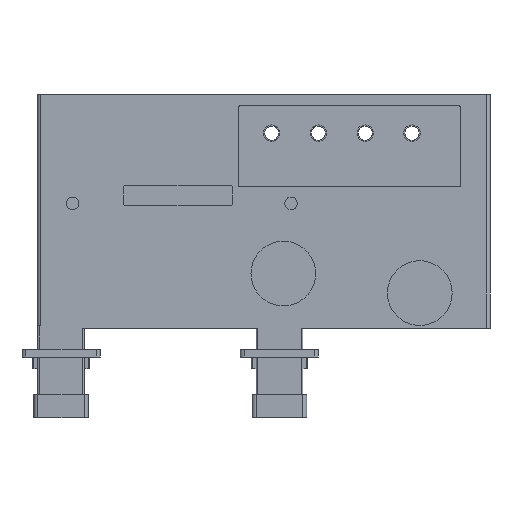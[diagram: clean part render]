
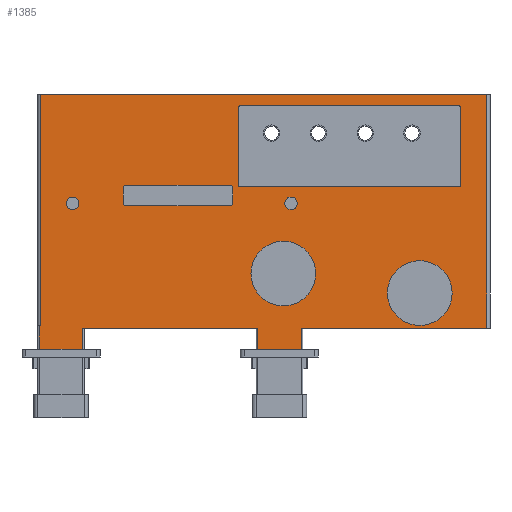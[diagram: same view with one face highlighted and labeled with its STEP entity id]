
A CAD part, front view. The second image highlights one B-rep face of the part: STEP entity #1385.
In plain terms, the highlighted planar face has unit normal (0, -1, 0).
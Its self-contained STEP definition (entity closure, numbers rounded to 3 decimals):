
#1236 = VERTEX_POINT('',#1237);
#1237 = CARTESIAN_POINT('',(-40.2,16.,14.3));
#1244 = EDGE_CURVE('',#1236,#1245,#1247,.T.);
#1245 = VERTEX_POINT('',#1246);
#1246 = CARTESIAN_POINT('',(-45.8,16.,14.3));
#1247 = LINE('',#1248,#1249);
#1248 = CARTESIAN_POINT('',(-31.195,16.,14.3));
#1249 = VECTOR('',#1250,1.);
#1250 = DIRECTION('',(-1.,0.,0.));
#1339 = EDGE_CURVE('',#1245,#1340,#1342,.T.);
#1340 = VERTEX_POINT('',#1341);
#1341 = CARTESIAN_POINT('',(-45.8,16.,17.3));
#1342 = LINE('',#1343,#1344);
#1343 = CARTESIAN_POINT('',(-45.8,16.,8.4));
#1344 = VECTOR('',#1345,1.);
#1345 = DIRECTION('',(0.,0.,1.));
#1385 = ADVANCED_FACE('',(#1386,#1468,#1479,#1549,#1619,#1630,#1641),
  #1652,.T.);
#1386 = FACE_BOUND('',#1387,.T.);
#1387 = EDGE_LOOP('',(#1388,#1389,#1390,#1398,#1406,#1414,#1422,#1430,
    #1438,#1446,#1454,#1462));
#1388 = ORIENTED_EDGE('',*,*,#1339,.F.);
#1389 = ORIENTED_EDGE('',*,*,#1244,.F.);
#1390 = ORIENTED_EDGE('',*,*,#1391,.T.);
#1391 = EDGE_CURVE('',#1236,#1392,#1394,.T.);
#1392 = VERTEX_POINT('',#1393);
#1393 = CARTESIAN_POINT('',(-40.2,16.,17.));
#1394 = LINE('',#1395,#1396);
#1395 = CARTESIAN_POINT('',(-40.2,16.,8.4));
#1396 = VECTOR('',#1397,1.);
#1397 = DIRECTION('',(0.,0.,1.));
#1398 = ORIENTED_EDGE('',*,*,#1399,.T.);
#1399 = EDGE_CURVE('',#1392,#1400,#1402,.T.);
#1400 = VERTEX_POINT('',#1401);
#1401 = CARTESIAN_POINT('',(-17.8,16.,17.));
#1402 = LINE('',#1403,#1404);
#1403 = CARTESIAN_POINT('',(-45.6,16.,17.));
#1404 = VECTOR('',#1405,1.);
#1405 = DIRECTION('',(1.,0.,0.));
#1406 = ORIENTED_EDGE('',*,*,#1407,.F.);
#1407 = EDGE_CURVE('',#1408,#1400,#1410,.T.);
#1408 = VERTEX_POINT('',#1409);
#1409 = CARTESIAN_POINT('',(-17.8,16.,14.3));
#1410 = LINE('',#1411,#1412);
#1411 = CARTESIAN_POINT('',(-17.8,16.,8.4));
#1412 = VECTOR('',#1413,1.);
#1413 = DIRECTION('',(0.,0.,1.));
#1414 = ORIENTED_EDGE('',*,*,#1415,.F.);
#1415 = EDGE_CURVE('',#1416,#1408,#1418,.T.);
#1416 = VERTEX_POINT('',#1417);
#1417 = CARTESIAN_POINT('',(-12.2,16.,14.3));
#1418 = LINE('',#1419,#1420);
#1419 = CARTESIAN_POINT('',(-16.298,16.,14.3));
#1420 = VECTOR('',#1421,1.);
#1421 = DIRECTION('',(-1.,0.,0.));
#1422 = ORIENTED_EDGE('',*,*,#1423,.T.);
#1423 = EDGE_CURVE('',#1416,#1424,#1426,.T.);
#1424 = VERTEX_POINT('',#1425);
#1425 = CARTESIAN_POINT('',(-12.2,16.,17.));
#1426 = LINE('',#1427,#1428);
#1427 = CARTESIAN_POINT('',(-12.2,16.,8.4));
#1428 = VECTOR('',#1429,1.);
#1429 = DIRECTION('',(0.,0.,1.));
#1430 = ORIENTED_EDGE('',*,*,#1431,.T.);
#1431 = EDGE_CURVE('',#1424,#1432,#1434,.T.);
#1432 = VERTEX_POINT('',#1433);
#1433 = CARTESIAN_POINT('',(11.6,16.,17.));
#1434 = LINE('',#1435,#1436);
#1435 = CARTESIAN_POINT('',(-45.6,16.,17.));
#1436 = VECTOR('',#1437,1.);
#1437 = DIRECTION('',(1.,0.,0.));
#1438 = ORIENTED_EDGE('',*,*,#1439,.T.);
#1439 = EDGE_CURVE('',#1432,#1440,#1442,.T.);
#1440 = VERTEX_POINT('',#1441);
#1441 = CARTESIAN_POINT('',(11.6,16.,47.));
#1442 = LINE('',#1443,#1444);
#1443 = CARTESIAN_POINT('',(11.6,16.,17.));
#1444 = VECTOR('',#1445,1.);
#1445 = DIRECTION('',(0.,0.,1.));
#1446 = ORIENTED_EDGE('',*,*,#1447,.F.);
#1447 = EDGE_CURVE('',#1448,#1440,#1450,.T.);
#1448 = VERTEX_POINT('',#1449);
#1449 = CARTESIAN_POINT('',(-45.6,16.,47.));
#1450 = LINE('',#1451,#1452);
#1451 = CARTESIAN_POINT('',(-45.6,16.,47.));
#1452 = VECTOR('',#1453,1.);
#1453 = DIRECTION('',(1.,0.,0.));
#1454 = ORIENTED_EDGE('',*,*,#1455,.F.);
#1455 = EDGE_CURVE('',#1456,#1448,#1458,.T.);
#1456 = VERTEX_POINT('',#1457);
#1457 = CARTESIAN_POINT('',(-45.6,16.,17.3));
#1458 = LINE('',#1459,#1460);
#1459 = CARTESIAN_POINT('',(-45.6,16.,17.));
#1460 = VECTOR('',#1461,1.);
#1461 = DIRECTION('',(0.,0.,1.));
#1462 = ORIENTED_EDGE('',*,*,#1463,.F.);
#1463 = EDGE_CURVE('',#1340,#1456,#1464,.T.);
#1464 = LINE('',#1465,#1466);
#1465 = CARTESIAN_POINT('',(-45.8,16.,17.3));
#1466 = VECTOR('',#1467,1.);
#1467 = DIRECTION('',(1.,0.,0.));
#1468 = FACE_BOUND('',#1469,.T.);
#1469 = EDGE_LOOP('',(#1470));
#1470 = ORIENTED_EDGE('',*,*,#1471,.F.);
#1471 = EDGE_CURVE('',#1472,#1472,#1474,.T.);
#1472 = VERTEX_POINT('',#1473);
#1473 = CARTESIAN_POINT('',(-40.7,16.,33.));
#1474 = CIRCLE('',#1475,0.8);
#1475 = AXIS2_PLACEMENT_3D('',#1476,#1477,#1478);
#1476 = CARTESIAN_POINT('',(-41.5,16.,33.));
#1477 = DIRECTION('',(0.,-1.,0.));
#1478 = DIRECTION('',(1.,0.,0.));
#1479 = FACE_BOUND('',#1480,.T.);
#1480 = EDGE_LOOP('',(#1481,#1491,#1500,#1508,#1517,#1525,#1534,#1542));
#1481 = ORIENTED_EDGE('',*,*,#1482,.F.);
#1482 = EDGE_CURVE('',#1483,#1485,#1487,.T.);
#1483 = VERTEX_POINT('',#1484);
#1484 = CARTESIAN_POINT('',(-34.7,16.,32.7));
#1485 = VERTEX_POINT('',#1486);
#1486 = CARTESIAN_POINT('',(-21.3,16.,32.7));
#1487 = LINE('',#1488,#1489);
#1488 = CARTESIAN_POINT('',(-26.148,16.,32.7));
#1489 = VECTOR('',#1490,1.);
#1490 = DIRECTION('',(1.,0.,0.));
#1491 = ORIENTED_EDGE('',*,*,#1492,.F.);
#1492 = EDGE_CURVE('',#1493,#1483,#1495,.T.);
#1493 = VERTEX_POINT('',#1494);
#1494 = CARTESIAN_POINT('',(-35.,16.,33.));
#1495 = CIRCLE('',#1496,0.3);
#1496 = AXIS2_PLACEMENT_3D('',#1497,#1498,#1499);
#1497 = CARTESIAN_POINT('',(-34.7,16.,33.));
#1498 = DIRECTION('',(0.,-1.,0.));
#1499 = DIRECTION('',(-1.,0.,0.));
#1500 = ORIENTED_EDGE('',*,*,#1501,.F.);
#1501 = EDGE_CURVE('',#1502,#1493,#1504,.T.);
#1502 = VERTEX_POINT('',#1503);
#1503 = CARTESIAN_POINT('',(-35.,16.,35.));
#1504 = LINE('',#1505,#1506);
#1505 = CARTESIAN_POINT('',(-35.,16.,32.26));
#1506 = VECTOR('',#1507,1.);
#1507 = DIRECTION('',(0.,0.,-1.));
#1508 = ORIENTED_EDGE('',*,*,#1509,.F.);
#1509 = EDGE_CURVE('',#1510,#1502,#1512,.T.);
#1510 = VERTEX_POINT('',#1511);
#1511 = CARTESIAN_POINT('',(-34.7,16.,35.3));
#1512 = CIRCLE('',#1513,0.3);
#1513 = AXIS2_PLACEMENT_3D('',#1514,#1515,#1516);
#1514 = CARTESIAN_POINT('',(-34.7,16.,35.));
#1515 = DIRECTION('',(0.,-1.,0.));
#1516 = DIRECTION('',(0.,0.,1.));
#1517 = ORIENTED_EDGE('',*,*,#1518,.F.);
#1518 = EDGE_CURVE('',#1519,#1510,#1521,.T.);
#1519 = VERTEX_POINT('',#1520);
#1520 = CARTESIAN_POINT('',(-21.3,16.,35.3));
#1521 = LINE('',#1522,#1523);
#1522 = CARTESIAN_POINT('',(-19.448,16.,35.3));
#1523 = VECTOR('',#1524,1.);
#1524 = DIRECTION('',(-1.,0.,0.));
#1525 = ORIENTED_EDGE('',*,*,#1526,.F.);
#1526 = EDGE_CURVE('',#1527,#1519,#1529,.T.);
#1527 = VERTEX_POINT('',#1528);
#1528 = CARTESIAN_POINT('',(-21.,16.,35.));
#1529 = CIRCLE('',#1530,0.3);
#1530 = AXIS2_PLACEMENT_3D('',#1531,#1532,#1533);
#1531 = CARTESIAN_POINT('',(-21.3,16.,35.));
#1532 = DIRECTION('',(0.,-1.,0.));
#1533 = DIRECTION('',(1.,0.,0.));
#1534 = ORIENTED_EDGE('',*,*,#1535,.F.);
#1535 = EDGE_CURVE('',#1536,#1527,#1538,.T.);
#1536 = VERTEX_POINT('',#1537);
#1537 = CARTESIAN_POINT('',(-21.,16.,33.));
#1538 = LINE('',#1539,#1540);
#1539 = CARTESIAN_POINT('',(-21.,16.,31.26));
#1540 = VECTOR('',#1541,1.);
#1541 = DIRECTION('',(0.,0.,1.));
#1542 = ORIENTED_EDGE('',*,*,#1543,.F.);
#1543 = EDGE_CURVE('',#1485,#1536,#1544,.T.);
#1544 = CIRCLE('',#1545,0.3);
#1545 = AXIS2_PLACEMENT_3D('',#1546,#1547,#1548);
#1546 = CARTESIAN_POINT('',(-21.3,16.,33.));
#1547 = DIRECTION('',(0.,-1.,0.));
#1548 = DIRECTION('',(0.,0.,-1.));
#1549 = FACE_BOUND('',#1550,.T.);
#1550 = EDGE_LOOP('',(#1551,#1561,#1570,#1578,#1587,#1595,#1604,#1612));
#1551 = ORIENTED_EDGE('',*,*,#1552,.F.);
#1552 = EDGE_CURVE('',#1553,#1555,#1557,.T.);
#1553 = VERTEX_POINT('',#1554);
#1554 = CARTESIAN_POINT('',(-20.05,16.,35.1));
#1555 = VERTEX_POINT('',#1556);
#1556 = CARTESIAN_POINT('',(8.05,16.,35.1));
#1557 = LINE('',#1558,#1559);
#1558 = CARTESIAN_POINT('',(-18.823,16.,35.1));
#1559 = VECTOR('',#1560,1.);
#1560 = DIRECTION('',(1.,0.,0.));
#1561 = ORIENTED_EDGE('',*,*,#1562,.F.);
#1562 = EDGE_CURVE('',#1563,#1553,#1565,.T.);
#1563 = VERTEX_POINT('',#1564);
#1564 = CARTESIAN_POINT('',(-20.2,16.,35.25));
#1565 = CIRCLE('',#1566,0.15);
#1566 = AXIS2_PLACEMENT_3D('',#1567,#1568,#1569);
#1567 = CARTESIAN_POINT('',(-20.05,16.,35.25));
#1568 = DIRECTION('',(0.,-1.,0.));
#1569 = DIRECTION('',(-1.,0.,0.));
#1570 = ORIENTED_EDGE('',*,*,#1571,.F.);
#1571 = EDGE_CURVE('',#1572,#1563,#1574,.T.);
#1572 = VERTEX_POINT('',#1573);
#1573 = CARTESIAN_POINT('',(-20.2,16.,45.35));
#1574 = LINE('',#1575,#1576);
#1575 = CARTESIAN_POINT('',(-20.2,16.,37.435));
#1576 = VECTOR('',#1577,1.);
#1577 = DIRECTION('',(0.,0.,-1.));
#1578 = ORIENTED_EDGE('',*,*,#1579,.F.);
#1579 = EDGE_CURVE('',#1580,#1572,#1582,.T.);
#1580 = VERTEX_POINT('',#1581);
#1581 = CARTESIAN_POINT('',(-20.05,16.,45.5));
#1582 = CIRCLE('',#1583,0.15);
#1583 = AXIS2_PLACEMENT_3D('',#1584,#1585,#1586);
#1584 = CARTESIAN_POINT('',(-20.05,16.,45.35));
#1585 = DIRECTION('',(0.,-1.,0.));
#1586 = DIRECTION('',(0.,0.,1.));
#1587 = ORIENTED_EDGE('',*,*,#1588,.F.);
#1588 = EDGE_CURVE('',#1589,#1580,#1591,.T.);
#1589 = VERTEX_POINT('',#1590);
#1590 = CARTESIAN_POINT('',(8.05,16.,45.5));
#1591 = LINE('',#1592,#1593);
#1592 = CARTESIAN_POINT('',(-4.773,16.,45.5));
#1593 = VECTOR('',#1594,1.);
#1594 = DIRECTION('',(-1.,0.,0.));
#1595 = ORIENTED_EDGE('',*,*,#1596,.F.);
#1596 = EDGE_CURVE('',#1597,#1589,#1599,.T.);
#1597 = VERTEX_POINT('',#1598);
#1598 = CARTESIAN_POINT('',(8.2,16.,45.35));
#1599 = CIRCLE('',#1600,0.15);
#1600 = AXIS2_PLACEMENT_3D('',#1601,#1602,#1603);
#1601 = CARTESIAN_POINT('',(8.05,16.,45.35));
#1602 = DIRECTION('',(0.,-1.,0.));
#1603 = DIRECTION('',(1.,0.,0.));
#1604 = ORIENTED_EDGE('',*,*,#1605,.F.);
#1605 = EDGE_CURVE('',#1606,#1597,#1608,.T.);
#1606 = VERTEX_POINT('',#1607);
#1607 = CARTESIAN_POINT('',(8.2,16.,35.25));
#1608 = LINE('',#1609,#1610);
#1609 = CARTESIAN_POINT('',(8.2,16.,32.385));
#1610 = VECTOR('',#1611,1.);
#1611 = DIRECTION('',(0.,0.,1.));
#1612 = ORIENTED_EDGE('',*,*,#1613,.F.);
#1613 = EDGE_CURVE('',#1555,#1606,#1614,.T.);
#1614 = CIRCLE('',#1615,0.15);
#1615 = AXIS2_PLACEMENT_3D('',#1616,#1617,#1618);
#1616 = CARTESIAN_POINT('',(8.05,16.,35.25));
#1617 = DIRECTION('',(0.,-1.,0.));
#1618 = DIRECTION('',(0.,0.,-1.));
#1619 = FACE_BOUND('',#1620,.T.);
#1620 = EDGE_LOOP('',(#1621));
#1621 = ORIENTED_EDGE('',*,*,#1622,.F.);
#1622 = EDGE_CURVE('',#1623,#1623,#1625,.T.);
#1623 = VERTEX_POINT('',#1624);
#1624 = CARTESIAN_POINT('',(-12.7,16.,33.));
#1625 = CIRCLE('',#1626,0.8);
#1626 = AXIS2_PLACEMENT_3D('',#1627,#1628,#1629);
#1627 = CARTESIAN_POINT('',(-13.5,16.,33.));
#1628 = DIRECTION('',(0.,-1.,0.));
#1629 = DIRECTION('',(1.,0.,0.));
#1630 = FACE_BOUND('',#1631,.T.);
#1631 = EDGE_LOOP('',(#1632));
#1632 = ORIENTED_EDGE('',*,*,#1633,.F.);
#1633 = EDGE_CURVE('',#1634,#1634,#1636,.T.);
#1634 = VERTEX_POINT('',#1635);
#1635 = CARTESIAN_POINT('',(-10.35,16.,24.));
#1636 = CIRCLE('',#1637,4.15);
#1637 = AXIS2_PLACEMENT_3D('',#1638,#1639,#1640);
#1638 = CARTESIAN_POINT('',(-14.5,16.,24.));
#1639 = DIRECTION('',(0.,-1.,0.));
#1640 = DIRECTION('',(1.,0.,0.));
#1641 = FACE_BOUND('',#1642,.T.);
#1642 = EDGE_LOOP('',(#1643));
#1643 = ORIENTED_EDGE('',*,*,#1644,.F.);
#1644 = EDGE_CURVE('',#1645,#1645,#1647,.T.);
#1645 = VERTEX_POINT('',#1646);
#1646 = CARTESIAN_POINT('',(7.15,16.,21.5));
#1647 = CIRCLE('',#1648,4.15);
#1648 = AXIS2_PLACEMENT_3D('',#1649,#1650,#1651);
#1649 = CARTESIAN_POINT('',(3.,16.,21.5));
#1650 = DIRECTION('',(0.,-1.,0.));
#1651 = DIRECTION('',(1.,0.,0.));
#1652 = PLANE('',#1653);
#1653 = AXIS2_PLACEMENT_3D('',#1654,#1655,#1656);
#1654 = CARTESIAN_POINT('',(-17.595,16.,29.52));
#1655 = DIRECTION('',(-0.,-1.,-0.));
#1656 = DIRECTION('',(0.,0.,-1.));
